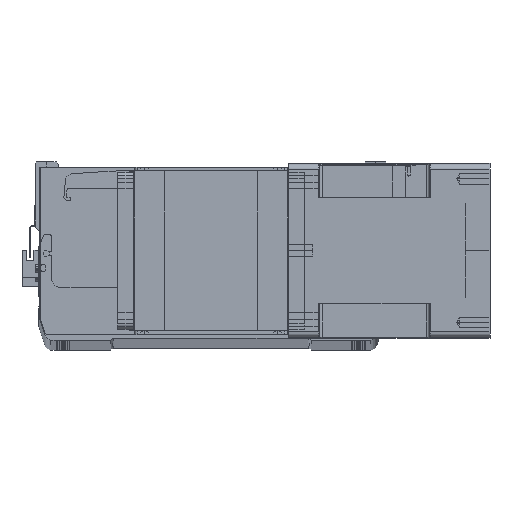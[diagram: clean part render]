
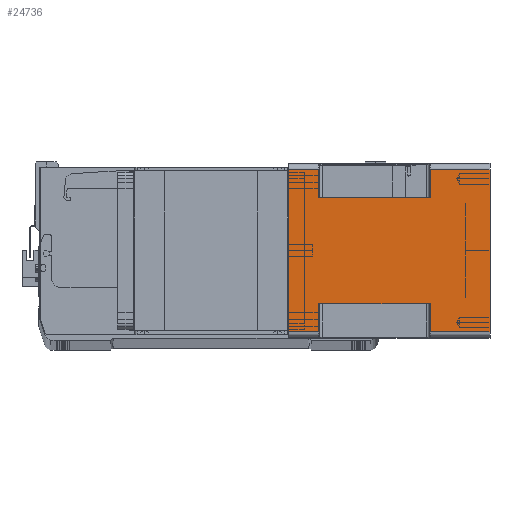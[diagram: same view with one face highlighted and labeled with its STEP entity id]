
A CAD part, top view. The second image highlights one B-rep face of the part: STEP entity #24736.
In plain terms, the highlighted planar face has unit normal (0, 0, 1) as drawn and (1, 0, 0) by its records, which use the part's own axes.
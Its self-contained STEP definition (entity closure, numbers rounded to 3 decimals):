
#896 = CARTESIAN_POINT ( 'NONE',  ( 71., 66., -115.5 ) ) ;
#2016 = CARTESIAN_POINT ( 'NONE',  ( 71., -66., -24.5 ) ) ;
#2079 = EDGE_LOOP ( 'NONE', ( #36990, #13016, #9451, #3599, #19147, #19203, #21976, #7184, #7593, #30265, #27693, #20727 ) ) ;
#2098 = PLANE ( 'NONE',  #22824 ) ;
#2977 = VECTOR ( 'NONE', #7294, 1000. ) ;
#3532 = DIRECTION ( 'NONE',  ( 0., -1., 0. ) ) ;
#3599 = ORIENTED_EDGE ( 'NONE', *, *, #9749, .T. ) ;
#3780 = CARTESIAN_POINT ( 'NONE',  ( 71., -43., -24.5 ) ) ;
#3949 = LINE ( 'NONE', #13839, #18115 ) ;
#3993 = EDGE_CURVE ( 'NONE', #11997, #26631, #27629, .T. ) ;
#4255 = LINE ( 'NONE', #2016, #31569 ) ;
#5366 = CARTESIAN_POINT ( 'NONE',  ( 71., -66., -164. ) ) ;
#5399 = VERTEX_POINT ( 'NONE', #21295 ) ;
#6115 = EDGE_CURVE ( 'NONE', #15595, #19936, #3949, .T. ) ;
#6565 = EDGE_CURVE ( 'NONE', #17019, #5399, #18080, .T. ) ;
#6677 = LINE ( 'NONE', #24938, #34809 ) ;
#7184 = ORIENTED_EDGE ( 'NONE', *, *, #25711, .T. ) ;
#7294 = DIRECTION ( 'NONE',  ( 0., 1., 0. ) ) ;
#7593 = ORIENTED_EDGE ( 'NONE', *, *, #33089, .T. ) ;
#7906 = CARTESIAN_POINT ( 'NONE',  ( 71., 66., 0. ) ) ;
#8171 = CARTESIAN_POINT ( 'NONE',  ( 71., -66., -164. ) ) ;
#8429 = VECTOR ( 'NONE', #11556, 1000. ) ;
#8467 = CARTESIAN_POINT ( 'NONE',  ( 71., -66., 0. ) ) ;
#8608 = VECTOR ( 'NONE', #29526, 1000. ) ;
#8694 = CARTESIAN_POINT ( 'NONE',  ( 71., -43., -115.5 ) ) ;
#9451 = ORIENTED_EDGE ( 'NONE', *, *, #6565, .F. ) ;
#9749 = EDGE_CURVE ( 'NONE', #17019, #11997, #14778, .T. ) ;
#10649 = CARTESIAN_POINT ( 'NONE',  ( 71., -66., -164. ) ) ;
#11556 = DIRECTION ( 'NONE',  ( 0., -1., 0. ) ) ;
#11621 = VECTOR ( 'NONE', #31529, 1000. ) ;
#11841 = VERTEX_POINT ( 'NONE', #23468 ) ;
#11997 = VERTEX_POINT ( 'NONE', #25265 ) ;
#11998 = VECTOR ( 'NONE', #31706, 1000. ) ;
#12903 = CARTESIAN_POINT ( 'NONE',  ( 71., 43., -115.5 ) ) ;
#12977 = CARTESIAN_POINT ( 'NONE',  ( 71., 43., -164. ) ) ;
#13016 = ORIENTED_EDGE ( 'NONE', *, *, #16055, .T. ) ;
#13839 = CARTESIAN_POINT ( 'NONE',  ( 71., -43., -164. ) ) ;
#14377 = VECTOR ( 'NONE', #24505, 1000. ) ;
#14778 = LINE ( 'NONE', #30992, #2977 ) ;
#15595 = VERTEX_POINT ( 'NONE', #8694 ) ;
#15748 = DIRECTION ( 'NONE',  ( 0., 1., 0. ) ) ;
#16055 = EDGE_CURVE ( 'NONE', #15595, #5399, #38097, .T. ) ;
#17019 = VERTEX_POINT ( 'NONE', #5366 ) ;
#17226 = VERTEX_POINT ( 'NONE', #34302 ) ;
#17276 = DIRECTION ( 'NONE',  ( 1., 0., 0. ) ) ;
#18080 = LINE ( 'NONE', #25767, #35495 ) ;
#18115 = VECTOR ( 'NONE', #35195, 1000. ) ;
#19147 = ORIENTED_EDGE ( 'NONE', *, *, #3993, .T. ) ;
#19203 = ORIENTED_EDGE ( 'NONE', *, *, #22208, .T. ) ;
#19936 = VERTEX_POINT ( 'NONE', #3780 ) ;
#20201 = CARTESIAN_POINT ( 'NONE',  ( 71., 43., -24.5 ) ) ;
#20727 = ORIENTED_EDGE ( 'NONE', *, *, #25426, .T. ) ;
#21278 = LINE ( 'NONE', #36466, #30185 ) ;
#21295 = CARTESIAN_POINT ( 'NONE',  ( 71., -66., -115.5 ) ) ;
#21976 = ORIENTED_EDGE ( 'NONE', *, *, #27222, .F. ) ;
#22208 = EDGE_CURVE ( 'NONE', #26631, #38950, #21278, .T. ) ;
#22824 = AXIS2_PLACEMENT_3D ( 'NONE', #8171, #17276, #32282 ) ;
#23289 = VERTEX_POINT ( 'NONE', #7906 ) ;
#23303 = LINE ( 'NONE', #10649, #11998 ) ;
#23392 = LINE ( 'NONE', #12977, #28558 ) ;
#23468 = CARTESIAN_POINT ( 'NONE',  ( 71., -66., -24.5 ) ) ;
#24445 = CARTESIAN_POINT ( 'NONE',  ( 71., 66., -164. ) ) ;
#24505 = DIRECTION ( 'NONE',  ( 0., 0., 1. ) ) ;
#24736 = ADVANCED_FACE ( 'NONE', ( #26155 ), #2098, .T. ) ;
#24938 = CARTESIAN_POINT ( 'NONE',  ( 71., -43., -24.5 ) ) ;
#25265 = CARTESIAN_POINT ( 'NONE',  ( 71., 66., -164. ) ) ;
#25426 = EDGE_CURVE ( 'NONE', #11841, #19936, #6677, .T. ) ;
#25704 = DIRECTION ( 'NONE',  ( 0., 1., 0. ) ) ;
#25711 = EDGE_CURVE ( 'NONE', #36903, #17226, #4255, .T. ) ;
#25767 = CARTESIAN_POINT ( 'NONE',  ( 71., -66., -164. ) ) ;
#25893 = DIRECTION ( 'NONE',  ( 0., 0., 1. ) ) ;
#26155 = FACE_OUTER_BOUND ( 'NONE', #2079, .T. ) ;
#26578 = CARTESIAN_POINT ( 'NONE',  ( 71., -66., -115.5 ) ) ;
#26631 = VERTEX_POINT ( 'NONE', #896 ) ;
#27222 = EDGE_CURVE ( 'NONE', #36903, #38950, #23392, .T. ) ;
#27629 = LINE ( 'NONE', #24445, #11621 ) ;
#27693 = ORIENTED_EDGE ( 'NONE', *, *, #33388, .F. ) ;
#28558 = VECTOR ( 'NONE', #30874, 1000. ) ;
#28747 = VERTEX_POINT ( 'NONE', #33190 ) ;
#29526 = DIRECTION ( 'NONE',  ( 0., 1., 0. ) ) ;
#30185 = VECTOR ( 'NONE', #3532, 1000. ) ;
#30265 = ORIENTED_EDGE ( 'NONE', *, *, #34250, .F. ) ;
#30410 = CARTESIAN_POINT ( 'NONE',  ( 71., 66., -164. ) ) ;
#30874 = DIRECTION ( 'NONE',  ( 0., 0., -1. ) ) ;
#30992 = CARTESIAN_POINT ( 'NONE',  ( 71., -66., -164. ) ) ;
#31529 = DIRECTION ( 'NONE',  ( 0., 0., 1. ) ) ;
#31569 = VECTOR ( 'NONE', #25704, 1000. ) ;
#31706 = DIRECTION ( 'NONE',  ( 0., 0., 1. ) ) ;
#32282 = DIRECTION ( 'NONE',  ( 0., 1., 0. ) ) ;
#32651 = LINE ( 'NONE', #8467, #8608 ) ;
#33089 = EDGE_CURVE ( 'NONE', #17226, #23289, #36076, .T. ) ;
#33190 = CARTESIAN_POINT ( 'NONE',  ( 71., -66., 0. ) ) ;
#33388 = EDGE_CURVE ( 'NONE', #11841, #28747, #23303, .T. ) ;
#34250 = EDGE_CURVE ( 'NONE', #28747, #23289, #32651, .T. ) ;
#34302 = CARTESIAN_POINT ( 'NONE',  ( 71., 66., -24.5 ) ) ;
#34809 = VECTOR ( 'NONE', #15748, 1000. ) ;
#35195 = DIRECTION ( 'NONE',  ( 0., 0., 1. ) ) ;
#35495 = VECTOR ( 'NONE', #25893, 1000. ) ;
#36076 = LINE ( 'NONE', #30410, #14377 ) ;
#36466 = CARTESIAN_POINT ( 'NONE',  ( 71., 43., -115.5 ) ) ;
#36903 = VERTEX_POINT ( 'NONE', #20201 ) ;
#36990 = ORIENTED_EDGE ( 'NONE', *, *, #6115, .F. ) ;
#38097 = LINE ( 'NONE', #26578, #8429 ) ;
#38950 = VERTEX_POINT ( 'NONE', #12903 ) ;
